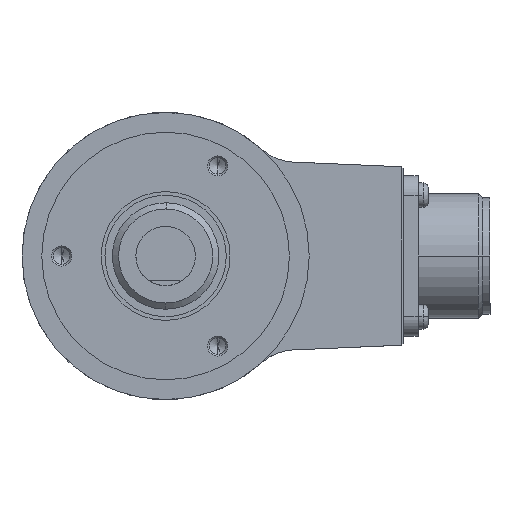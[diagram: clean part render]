
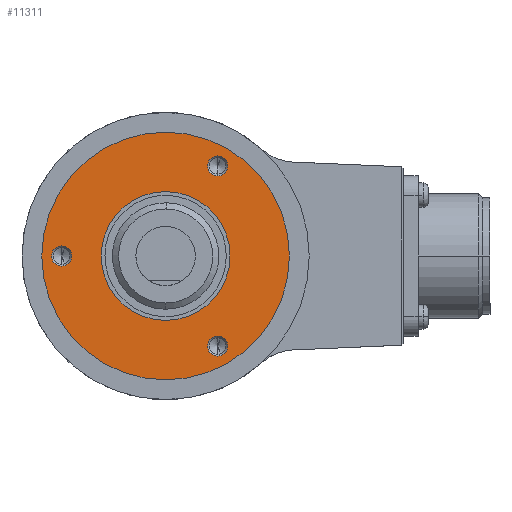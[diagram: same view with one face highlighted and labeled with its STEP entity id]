
A CAD part, left-side view. The second image highlights one B-rep face of the part: STEP entity #11311.
In plain terms, the highlighted planar face has unit normal (-1, 0, 0).
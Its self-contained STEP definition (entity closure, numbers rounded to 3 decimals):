
#507 = AXIS2_PLACEMENT_3D ( 'NONE', #2748, #8492, #14288 ) ;
#673 = VERTEX_POINT ( 'NONE', #14553 ) ;
#676 = EDGE_LOOP ( 'NONE', ( #12783, #14485 ) ) ;
#690 = EDGE_CURVE ( 'NONE', #2908, #6902, #13145, .T. ) ;
#762 = CARTESIAN_POINT ( 'NONE',  ( -3.622, 25.423, -25. ) ) ;
#927 = DIRECTION ( 'NONE',  ( 0., 0., 1. ) ) ;
#1220 = DIRECTION ( 'NONE',  ( -1., 0., 0. ) ) ;
#1254 = CARTESIAN_POINT ( 'NONE',  ( -3.622, 14.923, -18.187 ) ) ;
#1416 = ORIENTED_EDGE ( 'NONE', *, *, #10990, .F. ) ;
#1480 = EDGE_CURVE ( 'NONE', #1802, #673, #10980, .T. ) ;
#1720 = CIRCLE ( 'NONE', #5841, 2.025 ) ;
#1802 = VERTEX_POINT ( 'NONE', #14028 ) ;
#2044 = EDGE_CURVE ( 'NONE', #7095, #5704, #10765, .T. ) ;
#2352 = EDGE_LOOP ( 'NONE', ( #11919, #3932 ) ) ;
#2432 = CIRCLE ( 'NONE', #12321, 25. ) ;
#2748 = CARTESIAN_POINT ( 'NONE',  ( -3.622, 25.423, 0. ) ) ;
#2778 = CARTESIAN_POINT ( 'NONE',  ( -3.622, 50.423, 0. ) ) ;
#2780 = AXIS2_PLACEMENT_3D ( 'NONE', #8829, #5301, #927 ) ;
#2908 = VERTEX_POINT ( 'NONE', #9007 ) ;
#3067 = AXIS2_PLACEMENT_3D ( 'NONE', #7992, #1220, #11534 ) ;
#3359 = CIRCLE ( 'NONE', #5353, 2.025 ) ;
#3388 = CARTESIAN_POINT ( 'NONE',  ( -3.622, 46.423, 2.025 ) ) ;
#3613 = EDGE_LOOP ( 'NONE', ( #1416, #10509 ) ) ;
#3773 = ORIENTED_EDGE ( 'NONE', *, *, #6939, .F. ) ;
#3926 = FACE_OUTER_BOUND ( 'NONE', #9227, .T. ) ;
#3932 = ORIENTED_EDGE ( 'NONE', *, *, #1480, .F. ) ;
#4180 = DIRECTION ( 'NONE',  ( -1., 0., 0. ) ) ;
#4274 = CARTESIAN_POINT ( 'NONE',  ( -3.622, 14.923, 16.162 ) ) ;
#4289 = VERTEX_POINT ( 'NONE', #3388 ) ;
#4872 = CARTESIAN_POINT ( 'NONE',  ( -3.622, 25.423, 0. ) ) ;
#4901 = DIRECTION ( 'NONE',  ( -1., 0., 0. ) ) ;
#5018 = ORIENTED_EDGE ( 'NONE', *, *, #6567, .F. ) ;
#5214 = ORIENTED_EDGE ( 'NONE', *, *, #6892, .T. ) ;
#5301 = DIRECTION ( 'NONE',  ( -1., 0., 0. ) ) ;
#5353 = AXIS2_PLACEMENT_3D ( 'NONE', #10056, #5500, #8639 ) ;
#5500 = DIRECTION ( 'NONE',  ( -1., 0., 0. ) ) ;
#5517 = EDGE_CURVE ( 'NONE', #5957, #13191, #13241, .T. ) ;
#5704 = VERTEX_POINT ( 'NONE', #4274 ) ;
#5828 = CIRCLE ( 'NONE', #14222, 2.025 ) ;
#5841 = AXIS2_PLACEMENT_3D ( 'NONE', #6025, #4901, #12814 ) ;
#5890 = VERTEX_POINT ( 'NONE', #10727 ) ;
#5957 = VERTEX_POINT ( 'NONE', #11793 ) ;
#6025 = CARTESIAN_POINT ( 'NONE',  ( -3.622, 46.423, 0. ) ) ;
#6196 = FACE_BOUND ( 'NONE', #676, .T. ) ;
#6339 = DIRECTION ( 'NONE',  ( 0., 0., -1. ) ) ;
#6567 = EDGE_CURVE ( 'NONE', #4289, #5890, #5828, .T. ) ;
#6892 = EDGE_CURVE ( 'NONE', #13191, #5957, #2432, .T. ) ;
#6902 = VERTEX_POINT ( 'NONE', #9253 ) ;
#6939 = EDGE_CURVE ( 'NONE', #5890, #4289, #1720, .T. ) ;
#7003 = DIRECTION ( 'NONE',  ( -1., 0., 0. ) ) ;
#7095 = VERTEX_POINT ( 'NONE', #9908 ) ;
#7101 = AXIS2_PLACEMENT_3D ( 'NONE', #13448, #4180, #14580 ) ;
#7364 = CIRCLE ( 'NONE', #13384, 13. ) ;
#7627 = DIRECTION ( 'NONE',  ( -1., 0., 0. ) ) ;
#7683 = AXIS2_PLACEMENT_3D ( 'NONE', #2778, #8225, #6339 ) ;
#7992 = CARTESIAN_POINT ( 'NONE',  ( -3.622, 14.923, 18.187 ) ) ;
#8021 = DIRECTION ( 'NONE',  ( -1., 0., 0. ) ) ;
#8082 = EDGE_CURVE ( 'NONE', #673, #1802, #3359, .T. ) ;
#8225 = DIRECTION ( 'NONE',  ( 1., 0., 0. ) ) ;
#8492 = DIRECTION ( 'NONE',  ( -1., 0., 0. ) ) ;
#8588 = AXIS2_PLACEMENT_3D ( 'NONE', #1254, #8021, #12482 ) ;
#8639 = DIRECTION ( 'NONE',  ( 0., 0., 1. ) ) ;
#8829 = CARTESIAN_POINT ( 'NONE',  ( -3.622, 25.423, 0. ) ) ;
#9007 = CARTESIAN_POINT ( 'NONE',  ( -3.622, 25.423, -13. ) ) ;
#9030 = ORIENTED_EDGE ( 'NONE', *, *, #5517, .T. ) ;
#9227 = EDGE_LOOP ( 'NONE', ( #9030, #5214 ) ) ;
#9253 = CARTESIAN_POINT ( 'NONE',  ( -3.622, 25.423, 13. ) ) ;
#9341 = PLANE ( 'NONE',  #7683 ) ;
#9908 = CARTESIAN_POINT ( 'NONE',  ( -3.622, 14.923, 20.212 ) ) ;
#9914 = EDGE_CURVE ( 'NONE', #5704, #7095, #14310, .T. ) ;
#10056 = CARTESIAN_POINT ( 'NONE',  ( -3.622, 14.923, -18.187 ) ) ;
#10509 = ORIENTED_EDGE ( 'NONE', *, *, #690, .F. ) ;
#10727 = CARTESIAN_POINT ( 'NONE',  ( -3.622, 46.423, -2.025 ) ) ;
#10765 = CIRCLE ( 'NONE', #3067, 2.025 ) ;
#10771 = FACE_BOUND ( 'NONE', #14210, .T. ) ;
#10942 = DIRECTION ( 'NONE',  ( 0., 0., 1. ) ) ;
#10980 = CIRCLE ( 'NONE', #8588, 2.025 ) ;
#10990 = EDGE_CURVE ( 'NONE', #6902, #2908, #7364, .T. ) ;
#11311 = ADVANCED_FACE ( 'NONE', ( #13125, #6196, #10771, #14250, #3926 ), #9341, .F. ) ;
#11534 = DIRECTION ( 'NONE',  ( 0., 0., 1. ) ) ;
#11601 = DIRECTION ( 'NONE',  ( 0., 0., 1. ) ) ;
#11755 = DIRECTION ( 'NONE',  ( 0., 0., 1. ) ) ;
#11793 = CARTESIAN_POINT ( 'NONE',  ( -3.622, 25.423, 25. ) ) ;
#11902 = CARTESIAN_POINT ( 'NONE',  ( -3.622, 46.423, 0. ) ) ;
#11919 = ORIENTED_EDGE ( 'NONE', *, *, #8082, .F. ) ;
#12321 = AXIS2_PLACEMENT_3D ( 'NONE', #13718, #7003, #11601 ) ;
#12482 = DIRECTION ( 'NONE',  ( 0., 0., 1. ) ) ;
#12783 = ORIENTED_EDGE ( 'NONE', *, *, #2044, .F. ) ;
#12814 = DIRECTION ( 'NONE',  ( 0., 0., 1. ) ) ;
#12831 = DIRECTION ( 'NONE',  ( -1., 0., 0. ) ) ;
#13125 = FACE_BOUND ( 'NONE', #2352, .T. ) ;
#13145 = CIRCLE ( 'NONE', #2780, 13. ) ;
#13191 = VERTEX_POINT ( 'NONE', #762 ) ;
#13241 = CIRCLE ( 'NONE', #507, 25. ) ;
#13384 = AXIS2_PLACEMENT_3D ( 'NONE', #4872, #7627, #10942 ) ;
#13448 = CARTESIAN_POINT ( 'NONE',  ( -3.622, 14.923, 18.187 ) ) ;
#13718 = CARTESIAN_POINT ( 'NONE',  ( -3.622, 25.423, 0. ) ) ;
#14028 = CARTESIAN_POINT ( 'NONE',  ( -3.622, 14.923, -20.212 ) ) ;
#14210 = EDGE_LOOP ( 'NONE', ( #5018, #3773 ) ) ;
#14222 = AXIS2_PLACEMENT_3D ( 'NONE', #11902, #12831, #11755 ) ;
#14250 = FACE_BOUND ( 'NONE', #3613, .T. ) ;
#14288 = DIRECTION ( 'NONE',  ( 0., 0., 1. ) ) ;
#14310 = CIRCLE ( 'NONE', #7101, 2.025 ) ;
#14485 = ORIENTED_EDGE ( 'NONE', *, *, #9914, .F. ) ;
#14553 = CARTESIAN_POINT ( 'NONE',  ( -3.622, 14.923, -16.162 ) ) ;
#14580 = DIRECTION ( 'NONE',  ( 0., 0., 1. ) ) ;
